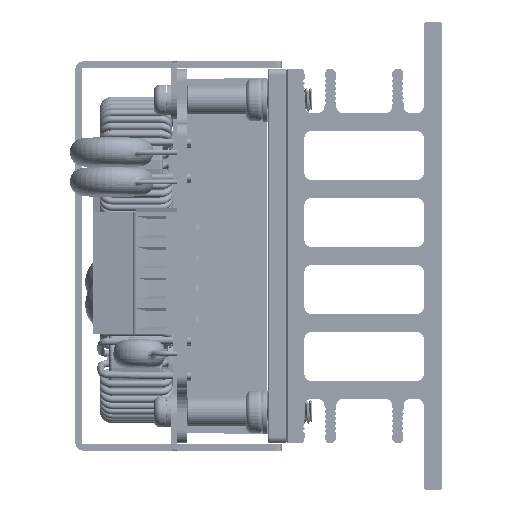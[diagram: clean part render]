
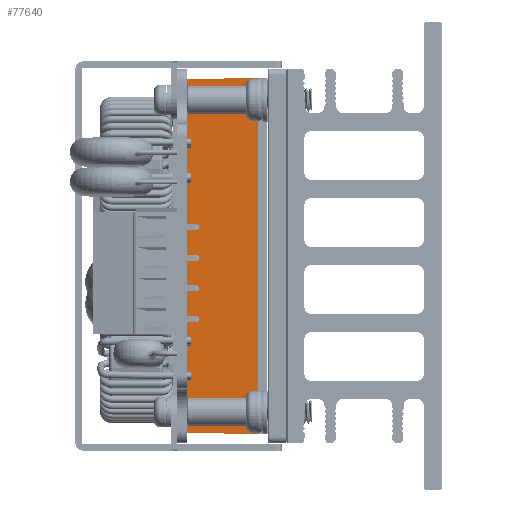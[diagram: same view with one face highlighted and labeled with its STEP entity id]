
A CAD part, left-side view. The second image highlights one B-rep face of the part: STEP entity #77640.
In plain terms, the highlighted planar face has unit normal (-1, 0.009, 0).
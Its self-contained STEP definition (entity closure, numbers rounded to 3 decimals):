
#3728 = ORIENTED_EDGE ( 'NONE', *, *, #116623, .T. ) ;
#4759 = FACE_OUTER_BOUND ( 'NONE', #20778, .T. ) ;
#14478 = ORIENTED_EDGE ( 'NONE', *, *, #151001, .T. ) ;
#15945 = CARTESIAN_POINT ( 'NONE',  ( -2.672, 7.5, 28.95 ) ) ;
#20778 = EDGE_LOOP ( 'NONE', ( #14478, #49467, #116896, #3728 ) ) ;
#39135 = DIRECTION ( 'NONE',  ( -0.009, -1., -0.009 ) ) ;
#42234 = DIRECTION ( 'NONE',  ( 0.009, 1., 0. ) ) ;
#45516 = VECTOR ( 'NONE', #67485, 1000. ) ;
#48137 = AXIS2_PLACEMENT_3D ( 'NONE', #15945, #151502, #42234 ) ;
#49467 = ORIENTED_EDGE ( 'NONE', *, *, #139390, .F. ) ;
#49582 = LINE ( 'NONE', #89998, #66185 ) ;
#55788 = DIRECTION ( 'NONE',  ( -0.009, -1., 0.009 ) ) ;
#60408 = VERTEX_POINT ( 'NONE', #107701 ) ;
#66185 = VECTOR ( 'NONE', #89192, 1000. ) ;
#67401 = VECTOR ( 'NONE', #39135, 1000. ) ;
#67485 = DIRECTION ( 'NONE',  ( 0., 0., 1. ) ) ;
#68766 = VERTEX_POINT ( 'NONE', #74278 ) ;
#74278 = CARTESIAN_POINT ( 'NONE',  ( -2.672, 7.5, 28.95 ) ) ;
#77640 = ADVANCED_FACE ( 'NONE', ( #4759 ), #102042, .T. ) ;
#89192 = DIRECTION ( 'NONE',  ( 0., 0., 1. ) ) ;
#89998 = CARTESIAN_POINT ( 'NONE',  ( -2.672, 7.5, 28.95 ) ) ;
#102042 = PLANE ( 'NONE',  #48137 ) ;
#103393 = CARTESIAN_POINT ( 'NONE',  ( -2.571, 19.1, 28.95 ) ) ;
#107701 = CARTESIAN_POINT ( 'NONE',  ( -2.672, 7.5, -28.95 ) ) ;
#112628 = CARTESIAN_POINT ( 'NONE',  ( -2.571, 19.1, -28.849 ) ) ;
#113793 = LINE ( 'NONE', #103393, #45516 ) ;
#116623 = EDGE_CURVE ( 'NONE', #137793, #60408, #135584, .T. ) ;
#116896 = ORIENTED_EDGE ( 'NONE', *, *, #128135, .F. ) ;
#128135 = EDGE_CURVE ( 'NONE', #137793, #147583, #113793, .T. ) ;
#135220 = VECTOR ( 'NONE', #55788, 1000. ) ;
#135584 = LINE ( 'NONE', #137154, #67401 ) ;
#137154 = CARTESIAN_POINT ( 'NONE',  ( -2.668, 8.005, -28.946 ) ) ;
#137793 = VERTEX_POINT ( 'NONE', #112628 ) ;
#139390 = EDGE_CURVE ( 'NONE', #147583, #68766, #141881, .T. ) ;
#141881 = LINE ( 'NONE', #153900, #135220 ) ;
#147583 = VERTEX_POINT ( 'NONE', #154494 ) ;
#151001 = EDGE_CURVE ( 'NONE', #60408, #68766, #49582, .T. ) ;
#151502 = DIRECTION ( 'NONE',  ( -1., 0.009, 0. ) ) ;
#153900 = CARTESIAN_POINT ( 'NONE',  ( -2.672, 7.5, 28.95 ) ) ;
#154494 = CARTESIAN_POINT ( 'NONE',  ( -2.571, 19.1, 28.849 ) ) ;
